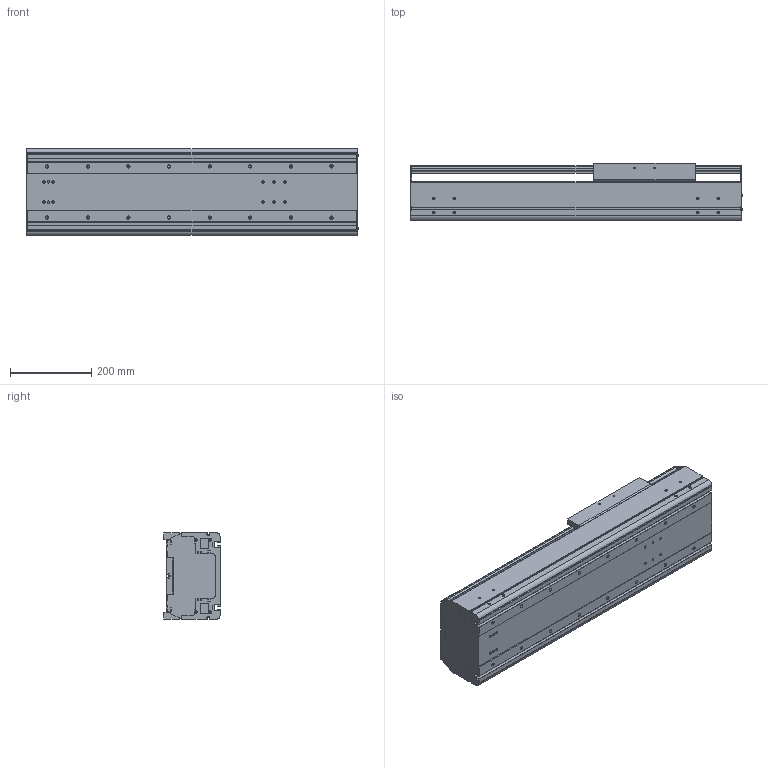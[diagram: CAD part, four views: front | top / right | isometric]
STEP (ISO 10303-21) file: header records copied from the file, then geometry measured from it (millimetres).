
FILE_DESCRIPTION((''),'2;1');
FILE_NAME('BE60G-ST-M_N-40_IGS_PRT','2017-06-18T',(' '),(''),'PRO/ENGINEER BY PARAMETRIC TECHNOLOGY CORPORATION, 2015030','PRO/ENGINEER BY PARAMETRIC TECHNOLOGY CORPORATION, 2015030','');
FILE_SCHEMA(('CONFIG_CONTROL_DESIGN'));
Length unit declared in the file: millimetre
Products named in the file (1): BE60G-ST-M_N-40_IGS_PRT
Bounding box: 817.4 x 140 x 214 mm (x, y, z)
Volume: 7016275.6 mm3; surface area: 1863337.2 mm2
Topology: 2 solids, 110 shells, 1384 faces, 3820 edges, 2502 vertices
Faces by surface type: cylinder 672, plane 580, cone 84, sphere 24, torus 24
Entity records: 45576 total; most frequent: CARTESIAN_POINT 9806, DIRECTION 7594, ORIENTED_EDGE 7056, EDGE_CURVE 3740, AXIS2_PLACEMENT_3D 2795, VERTEX_POINT 2502, VECTOR 2004, LINE 2004
